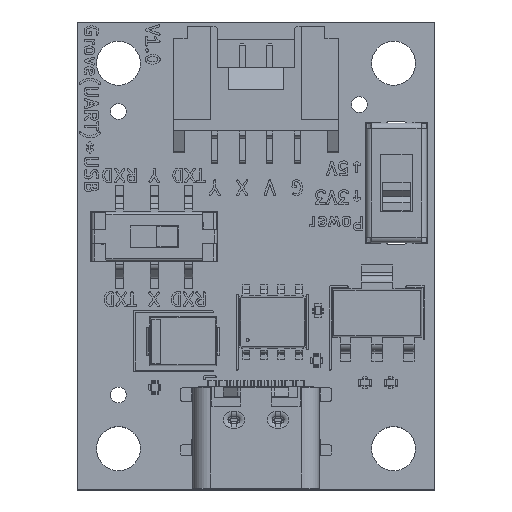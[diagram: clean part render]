
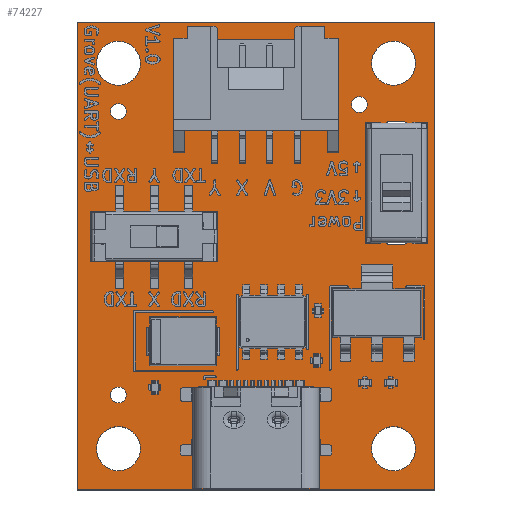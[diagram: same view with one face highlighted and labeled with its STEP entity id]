
A CAD part, top view. The second image highlights one B-rep face of the part: STEP entity #74227.
In plain terms, the highlighted planar face has unit normal (0, 0, 1).
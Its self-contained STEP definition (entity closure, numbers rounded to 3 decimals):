
#73911 = VERTEX_POINT('',#73912);
#73912 = CARTESIAN_POINT('',(13.,-17.,1.51));
#73918 = EDGE_CURVE('',#73911,#73919,#73921,.T.);
#73919 = VERTEX_POINT('',#73920);
#73920 = CARTESIAN_POINT('',(-13.,-17.,1.51));
#73921 = LINE('',#73922,#73923);
#73922 = CARTESIAN_POINT('',(13.,-17.,1.51));
#73923 = VECTOR('',#73924,1.);
#73924 = DIRECTION('',(-1.,0.,0.));
#73951 = VERTEX_POINT('',#73952);
#73952 = CARTESIAN_POINT('',(13.,17.,1.51));
#73958 = EDGE_CURVE('',#73951,#73911,#73959,.T.);
#73959 = LINE('',#73960,#73961);
#73960 = CARTESIAN_POINT('',(13.,17.,1.51));
#73961 = VECTOR('',#73962,1.);
#73962 = DIRECTION('',(0.,-1.,0.));
#73980 = EDGE_CURVE('',#73919,#73981,#73983,.T.);
#73981 = VERTEX_POINT('',#73982);
#73982 = CARTESIAN_POINT('',(-13.,17.,1.51));
#73983 = LINE('',#73984,#73985);
#73984 = CARTESIAN_POINT('',(-13.,-17.,1.51));
#73985 = VECTOR('',#73986,1.);
#73986 = DIRECTION('',(0.,1.,0.));
#74227 = ADVANCED_FACE('',(#74228,#74239,#74250,#74261,#74272,#74283,
    #74294,#74305,#74316,#74352,#74363,#74374,#74385,#74396,#74432),
  #74443,.T.);
#74228 = FACE_BOUND('',#74229,.T.);
#74229 = EDGE_LOOP('',(#74230,#74231,#74232,#74238));
#74230 = ORIENTED_EDGE('',*,*,#73918,.F.);
#74231 = ORIENTED_EDGE('',*,*,#73958,.F.);
#74232 = ORIENTED_EDGE('',*,*,#74233,.F.);
#74233 = EDGE_CURVE('',#73981,#73951,#74234,.T.);
#74234 = LINE('',#74235,#74236);
#74235 = CARTESIAN_POINT('',(-13.,17.,1.51));
#74236 = VECTOR('',#74237,1.);
#74237 = DIRECTION('',(1.,0.,0.));
#74238 = ORIENTED_EDGE('',*,*,#73980,.F.);
#74239 = FACE_BOUND('',#74240,.T.);
#74240 = EDGE_LOOP('',(#74241));
#74241 = ORIENTED_EDGE('',*,*,#74242,.T.);
#74242 = EDGE_CURVE('',#74243,#74243,#74245,.T.);
#74243 = VERTEX_POINT('',#74244);
#74244 = CARTESIAN_POINT('',(-10.,-15.6,1.51));
#74245 = CIRCLE('',#74246,1.6);
#74246 = AXIS2_PLACEMENT_3D('',#74247,#74248,#74249);
#74247 = CARTESIAN_POINT('',(-10.,-14.,1.51));
#74248 = DIRECTION('',(-0.,0.,-1.));
#74249 = DIRECTION('',(-0.,-1.,0.));
#74250 = FACE_BOUND('',#74251,.T.);
#74251 = EDGE_LOOP('',(#74252));
#74252 = ORIENTED_EDGE('',*,*,#74253,.T.);
#74253 = EDGE_CURVE('',#74254,#74254,#74256,.T.);
#74254 = VERTEX_POINT('',#74255);
#74255 = CARTESIAN_POINT('',(-10.,-10.676,1.51));
#74256 = CIRCLE('',#74257,0.576);
#74257 = AXIS2_PLACEMENT_3D('',#74258,#74259,#74260);
#74258 = CARTESIAN_POINT('',(-10.,-10.1,1.51));
#74259 = DIRECTION('',(-0.,0.,-1.));
#74260 = DIRECTION('',(-0.,-1.,0.));
#74261 = FACE_BOUND('',#74262,.T.);
#74262 = EDGE_LOOP('',(#74263));
#74263 = ORIENTED_EDGE('',*,*,#74264,.T.);
#74264 = EDGE_CURVE('',#74265,#74265,#74267,.T.);
#74265 = VERTEX_POINT('',#74266);
#74266 = CARTESIAN_POINT('',(-2.89,-11.022,1.51));
#74267 = CIRCLE('',#74268,0.325);
#74268 = AXIS2_PLACEMENT_3D('',#74269,#74270,#74271);
#74269 = CARTESIAN_POINT('',(-2.89,-10.697,1.51));
#74270 = DIRECTION('',(-0.,0.,-1.));
#74271 = DIRECTION('',(0.,-1.,0.));
#74272 = FACE_BOUND('',#74273,.T.);
#74273 = EDGE_LOOP('',(#74274));
#74274 = ORIENTED_EDGE('',*,*,#74275,.T.);
#74275 = EDGE_CURVE('',#74276,#74276,#74278,.T.);
#74276 = VERTEX_POINT('',#74277);
#74277 = CARTESIAN_POINT('',(2.89,-11.022,1.51));
#74278 = CIRCLE('',#74279,0.325);
#74279 = AXIS2_PLACEMENT_3D('',#74280,#74281,#74282);
#74280 = CARTESIAN_POINT('',(2.89,-10.697,1.51));
#74281 = DIRECTION('',(-0.,0.,-1.));
#74282 = DIRECTION('',(0.,-1.,-0.));
#74283 = FACE_BOUND('',#74284,.T.);
#74284 = EDGE_LOOP('',(#74285));
#74285 = ORIENTED_EDGE('',*,*,#74286,.T.);
#74286 = EDGE_CURVE('',#74287,#74287,#74289,.T.);
#74287 = VERTEX_POINT('',#74288);
#74288 = CARTESIAN_POINT('',(10.,-15.6,1.51));
#74289 = CIRCLE('',#74290,1.6);
#74290 = AXIS2_PLACEMENT_3D('',#74291,#74292,#74293);
#74291 = CARTESIAN_POINT('',(10.,-14.,1.51));
#74292 = DIRECTION('',(-0.,0.,-1.));
#74293 = DIRECTION('',(-0.,-1.,0.));
#74294 = FACE_BOUND('',#74295,.T.);
#74295 = EDGE_LOOP('',(#74296));
#74296 = ORIENTED_EDGE('',*,*,#74297,.T.);
#74297 = EDGE_CURVE('',#74298,#74298,#74300,.T.);
#74298 = VERTEX_POINT('',#74299);
#74299 = CARTESIAN_POINT('',(-10.,9.924,1.51));
#74300 = CIRCLE('',#74301,0.576);
#74301 = AXIS2_PLACEMENT_3D('',#74302,#74303,#74304);
#74302 = CARTESIAN_POINT('',(-10.,10.5,1.51));
#74303 = DIRECTION('',(-0.,0.,-1.));
#74304 = DIRECTION('',(-0.,-1.,0.));
#74305 = FACE_BOUND('',#74306,.T.);
#74306 = EDGE_LOOP('',(#74307));
#74307 = ORIENTED_EDGE('',*,*,#74308,.T.);
#74308 = EDGE_CURVE('',#74309,#74309,#74311,.T.);
#74309 = VERTEX_POINT('',#74310);
#74310 = CARTESIAN_POINT('',(-10.,12.4,1.51));
#74311 = CIRCLE('',#74312,1.6);
#74312 = AXIS2_PLACEMENT_3D('',#74313,#74314,#74315);
#74313 = CARTESIAN_POINT('',(-10.,14.,1.51));
#74314 = DIRECTION('',(-0.,0.,-1.));
#74315 = DIRECTION('',(-0.,-1.,0.));
#74316 = FACE_BOUND('',#74317,.T.);
#74317 = EDGE_LOOP('',(#74318,#74329,#74337,#74346));
#74318 = ORIENTED_EDGE('',*,*,#74319,.T.);
#74319 = EDGE_CURVE('',#74320,#74322,#74324,.T.);
#74320 = VERTEX_POINT('',#74321);
#74321 = CARTESIAN_POINT('',(10.65,1.5,1.51));
#74322 = VERTEX_POINT('',#74323);
#74323 = CARTESIAN_POINT('',(10.65,0.8,1.51));
#74324 = CIRCLE('',#74325,0.35);
#74325 = AXIS2_PLACEMENT_3D('',#74326,#74327,#74328);
#74326 = CARTESIAN_POINT('',(10.65,1.15,1.51));
#74327 = DIRECTION('',(-0.,0.,-1.));
#74328 = DIRECTION('',(0.,-1.,-0.));
#74329 = ORIENTED_EDGE('',*,*,#74330,.T.);
#74330 = EDGE_CURVE('',#74322,#74331,#74333,.T.);
#74331 = VERTEX_POINT('',#74332);
#74332 = CARTESIAN_POINT('',(9.75,0.8,1.51));
#74333 = LINE('',#74334,#74335);
#74334 = CARTESIAN_POINT('',(4.875,0.8,1.51));
#74335 = VECTOR('',#74336,1.);
#74336 = DIRECTION('',(-1.,0.,0.));
#74337 = ORIENTED_EDGE('',*,*,#74338,.T.);
#74338 = EDGE_CURVE('',#74331,#74339,#74341,.T.);
#74339 = VERTEX_POINT('',#74340);
#74340 = CARTESIAN_POINT('',(9.75,1.5,1.51));
#74341 = CIRCLE('',#74342,0.35);
#74342 = AXIS2_PLACEMENT_3D('',#74343,#74344,#74345);
#74343 = CARTESIAN_POINT('',(9.75,1.15,1.51));
#74344 = DIRECTION('',(-0.,0.,-1.));
#74345 = DIRECTION('',(0.,1.,0.));
#74346 = ORIENTED_EDGE('',*,*,#74347,.T.);
#74347 = EDGE_CURVE('',#74339,#74320,#74348,.T.);
#74348 = LINE('',#74349,#74350);
#74349 = CARTESIAN_POINT('',(5.325,1.5,1.51));
#74350 = VECTOR('',#74351,1.);
#74351 = DIRECTION('',(1.,0.,-0.));
#74352 = FACE_BOUND('',#74353,.T.);
#74353 = EDGE_LOOP('',(#74354));
#74354 = ORIENTED_EDGE('',*,*,#74355,.T.);
#74355 = EDGE_CURVE('',#74356,#74356,#74358,.T.);
#74356 = VERTEX_POINT('',#74357);
#74357 = CARTESIAN_POINT('',(10.2,2.9,1.51));
#74358 = CIRCLE('',#74359,0.4);
#74359 = AXIS2_PLACEMENT_3D('',#74360,#74361,#74362);
#74360 = CARTESIAN_POINT('',(10.2,3.3,1.51));
#74361 = DIRECTION('',(-0.,0.,-1.));
#74362 = DIRECTION('',(-0.,-1.,0.));
#74363 = FACE_BOUND('',#74364,.T.);
#74364 = EDGE_LOOP('',(#74365));
#74365 = ORIENTED_EDGE('',*,*,#74366,.T.);
#74366 = EDGE_CURVE('',#74367,#74367,#74369,.T.);
#74367 = VERTEX_POINT('',#74368);
#74368 = CARTESIAN_POINT('',(10.2,4.9,1.51));
#74369 = CIRCLE('',#74370,0.4);
#74370 = AXIS2_PLACEMENT_3D('',#74371,#74372,#74373);
#74371 = CARTESIAN_POINT('',(10.2,5.3,1.51));
#74372 = DIRECTION('',(-0.,0.,-1.));
#74373 = DIRECTION('',(-0.,-1.,0.));
#74374 = FACE_BOUND('',#74375,.T.);
#74375 = EDGE_LOOP('',(#74376));
#74376 = ORIENTED_EDGE('',*,*,#74377,.T.);
#74377 = EDGE_CURVE('',#74378,#74378,#74380,.T.);
#74378 = VERTEX_POINT('',#74379);
#74379 = CARTESIAN_POINT('',(10.2,6.9,1.51));
#74380 = CIRCLE('',#74381,0.4);
#74381 = AXIS2_PLACEMENT_3D('',#74382,#74383,#74384);
#74382 = CARTESIAN_POINT('',(10.2,7.3,1.51));
#74383 = DIRECTION('',(-0.,0.,-1.));
#74384 = DIRECTION('',(-0.,-1.,0.));
#74385 = FACE_BOUND('',#74386,.T.);
#74386 = EDGE_LOOP('',(#74387));
#74387 = ORIENTED_EDGE('',*,*,#74388,.T.);
#74388 = EDGE_CURVE('',#74389,#74389,#74391,.T.);
#74389 = VERTEX_POINT('',#74390);
#74390 = CARTESIAN_POINT('',(7.5,10.424,1.51));
#74391 = CIRCLE('',#74392,0.576);
#74392 = AXIS2_PLACEMENT_3D('',#74393,#74394,#74395);
#74393 = CARTESIAN_POINT('',(7.5,11.,1.51));
#74394 = DIRECTION('',(-0.,0.,-1.));
#74395 = DIRECTION('',(-0.,-1.,0.));
#74396 = FACE_BOUND('',#74397,.T.);
#74397 = EDGE_LOOP('',(#74398,#74409,#74417,#74426));
#74398 = ORIENTED_EDGE('',*,*,#74399,.T.);
#74399 = EDGE_CURVE('',#74400,#74402,#74404,.T.);
#74400 = VERTEX_POINT('',#74401);
#74401 = CARTESIAN_POINT('',(10.65,9.8,1.51));
#74402 = VERTEX_POINT('',#74403);
#74403 = CARTESIAN_POINT('',(10.65,9.1,1.51));
#74404 = CIRCLE('',#74405,0.35);
#74405 = AXIS2_PLACEMENT_3D('',#74406,#74407,#74408);
#74406 = CARTESIAN_POINT('',(10.65,9.45,1.51));
#74407 = DIRECTION('',(-0.,0.,-1.));
#74408 = DIRECTION('',(0.,-1.,-0.));
#74409 = ORIENTED_EDGE('',*,*,#74410,.T.);
#74410 = EDGE_CURVE('',#74402,#74411,#74413,.T.);
#74411 = VERTEX_POINT('',#74412);
#74412 = CARTESIAN_POINT('',(9.75,9.1,1.51));
#74413 = LINE('',#74414,#74415);
#74414 = CARTESIAN_POINT('',(4.875,9.1,1.51));
#74415 = VECTOR('',#74416,1.);
#74416 = DIRECTION('',(-1.,0.,0.));
#74417 = ORIENTED_EDGE('',*,*,#74418,.T.);
#74418 = EDGE_CURVE('',#74411,#74419,#74421,.T.);
#74419 = VERTEX_POINT('',#74420);
#74420 = CARTESIAN_POINT('',(9.75,9.8,1.51));
#74421 = CIRCLE('',#74422,0.35);
#74422 = AXIS2_PLACEMENT_3D('',#74423,#74424,#74425);
#74423 = CARTESIAN_POINT('',(9.75,9.45,1.51));
#74424 = DIRECTION('',(-0.,0.,-1.));
#74425 = DIRECTION('',(0.,1.,0.));
#74426 = ORIENTED_EDGE('',*,*,#74427,.T.);
#74427 = EDGE_CURVE('',#74419,#74400,#74428,.T.);
#74428 = LINE('',#74429,#74430);
#74429 = CARTESIAN_POINT('',(5.325,9.8,1.51));
#74430 = VECTOR('',#74431,1.);
#74431 = DIRECTION('',(1.,0.,-0.));
#74432 = FACE_BOUND('',#74433,.T.);
#74433 = EDGE_LOOP('',(#74434));
#74434 = ORIENTED_EDGE('',*,*,#74435,.T.);
#74435 = EDGE_CURVE('',#74436,#74436,#74438,.T.);
#74436 = VERTEX_POINT('',#74437);
#74437 = CARTESIAN_POINT('',(10.,12.4,1.51));
#74438 = CIRCLE('',#74439,1.6);
#74439 = AXIS2_PLACEMENT_3D('',#74440,#74441,#74442);
#74440 = CARTESIAN_POINT('',(10.,14.,1.51));
#74441 = DIRECTION('',(-0.,0.,-1.));
#74442 = DIRECTION('',(-0.,-1.,0.));
#74443 = PLANE('',#74444);
#74444 = AXIS2_PLACEMENT_3D('',#74445,#74446,#74447);
#74445 = CARTESIAN_POINT('',(0.,0.,1.51));
#74446 = DIRECTION('',(0.,0.,1.));
#74447 = DIRECTION('',(1.,0.,-0.));
